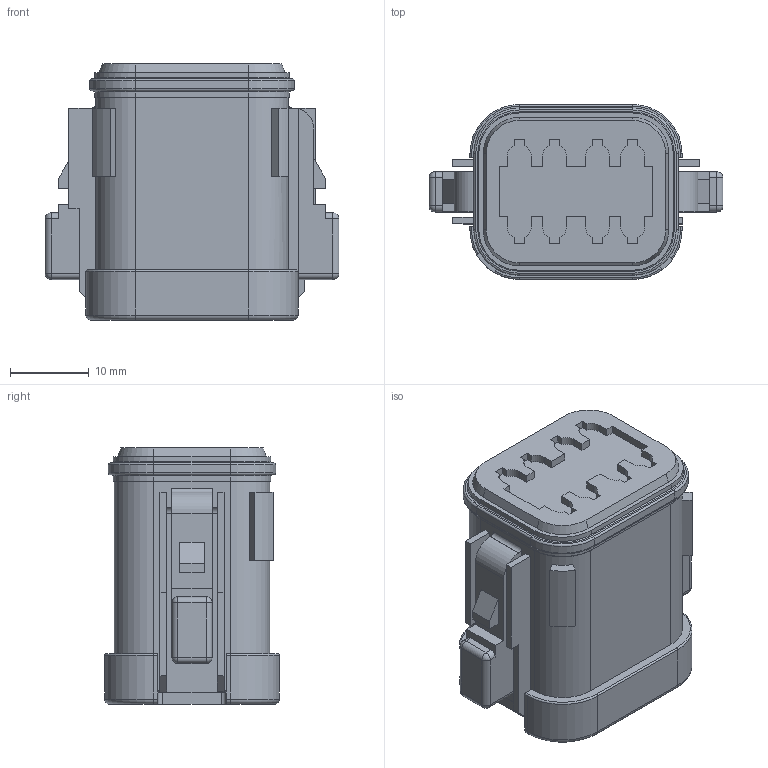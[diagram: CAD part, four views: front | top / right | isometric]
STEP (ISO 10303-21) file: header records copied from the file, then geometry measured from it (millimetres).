
FILE_DESCRIPTION((''),'2;1');
FILE_NAME('C-DT06-08SA-CE11','2013-06-25T',('workeradm'),('Tyco Electronics Ltd.'),'PRO/ENGINEER BY PARAMETRIC TECHNOLOGY CORPORATION, 2011490','PRO/ENGINEER BY PARAMETRIC TECHNOLOGY CORPORATION, 2011490','');
FILE_SCHEMA(('AUTOMOTIVE_DESIGN { 1 0 10303 214 1 1 1 1 }'));
Length unit declared in the file: millimetre
Products named in the file (1): C-DT06-08SA-CE11
Bounding box: 37.21 x 22.15 x 32.44 mm (x, y, z)
Volume: 15940.1 mm3; surface area: 5764.2 mm2
Topology: 1 solids, 1 shells, 573 faces, 1487 edges, 946 vertices
Faces by surface type: plane 335, cylinder 158, torus 68, sphere 8, cone 4
Entity records: 17733 total; most frequent: DIRECTION 3061, CARTESIAN_POINT 3008, ORIENTED_EDGE 2974, EDGE_CURVE 1487, VECTOR 1059, LINE 1059, AXIS2_PLACEMENT_3D 1001, VERTEX_POINT 946
